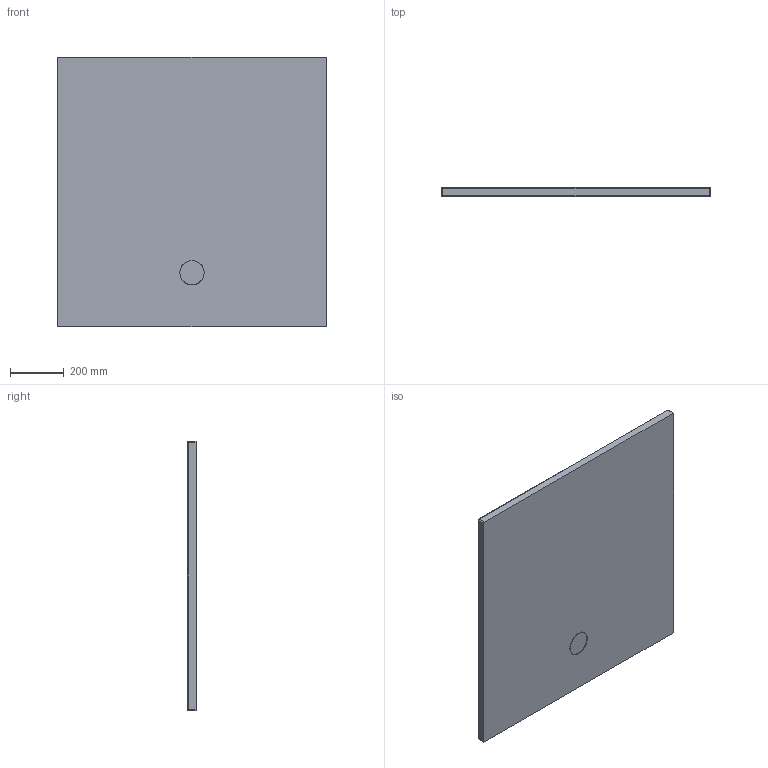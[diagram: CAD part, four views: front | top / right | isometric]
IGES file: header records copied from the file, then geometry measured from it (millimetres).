
Start section: SolidWorks IGES file using analytic representation for surfaces
Global section: file name: D:\Users\M.Szymanski\Desktop\Brodziki\Nias\B_M_NIAS_100x100x1,5.IGS; native system: SolidWorks 2011; preprocessor: SolidWorks 2011; author: M.Szymanski; date: 180222.141818; units: millimetre
Bounding box: 1000 x 30 x 1000 mm (x, y, z)
Surface area: 2139343.7 mm2 (no closed solid volume)
Topology: 0 solids, 0 shells, 45 faces, 664 edges, 663 vertices
Faces by surface type: bspline 25, revolution 20
